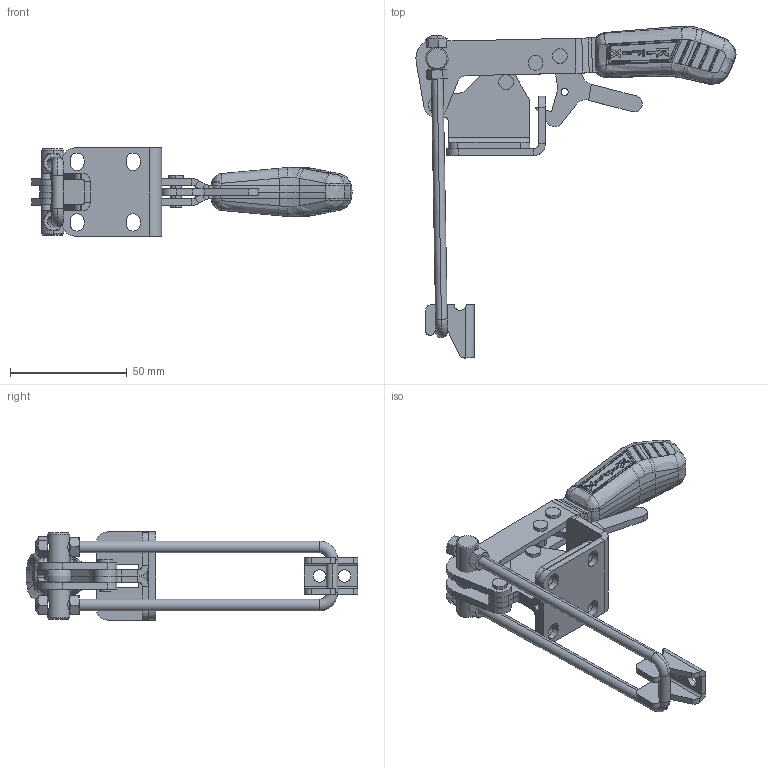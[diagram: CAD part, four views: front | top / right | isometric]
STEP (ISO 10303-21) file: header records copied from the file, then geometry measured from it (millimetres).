
FILE_DESCRIPTION (( 'STEP AP203' ), '1' );
FILE_NAME ('KF-063 DTR.STEP', '2014-08-22T11:55:53', ( 'Ricardo' ), ( '' ), 'SwSTEP 2.0', 'SolidWorks 2013', '' );
FILE_SCHEMA (( 'CONFIG_CONTROL_DESIGN' ));
Length unit declared in the file: millimetre
Products named in the file (15): 11.50005; 15.10026; 02.12051_Direita; 06.50024; 02.12051_Esquerda; 06.50006; 01.10102_Montagem; 07.60005; 01.10102_Esquerda; 02.10032; 16.20034; 18.10005; 03.20025; KF-063 DTR; 11.50013
Assembly tree (18 placements, depth 2):
  KF-063 DTR
    02.12051_Direita
    02.12051_Esquerda
    01.10102_Montagem
    01.10102_Esquerda
    16.20034
    03.20025
    11.50013  x2
    11.50005  x2
    15.10026
    06.50024
    06.50006  x3
    07.60005
    02.10032
    18.10005
Bounding box: 137.37 x 142.42 x 37.8 mm (x, y, z)
Volume: 53753.1 mm3; surface area: 39445 mm2
Topology: 18 solids, 18 shells, 1058 faces, 2687 edges, 1675 vertices
Faces by surface type: cylinder 342, plane 313, bspline 273, cone 72, sphere 50, torus 8
Entity records: 38624 total; most frequent: CARTESIAN_POINT 15438, ORIENTED_EDGE 5046, DIRECTION 3739, EDGE_CURVE 2523, VERTEX_POINT 1582, AXIS2_PLACEMENT_3D 1385, EDGE_LOOP 1067, FACE_OUTER_BOUND 987
